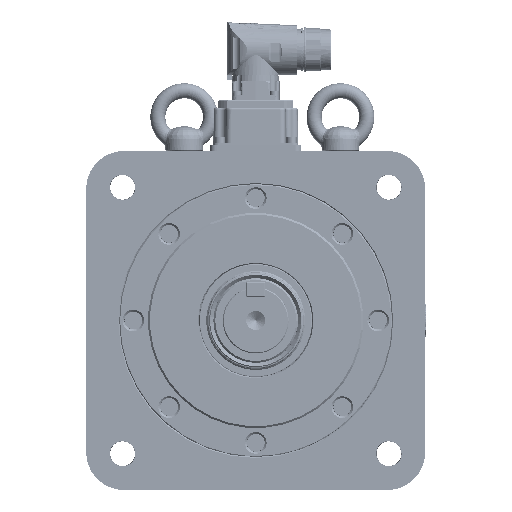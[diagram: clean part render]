
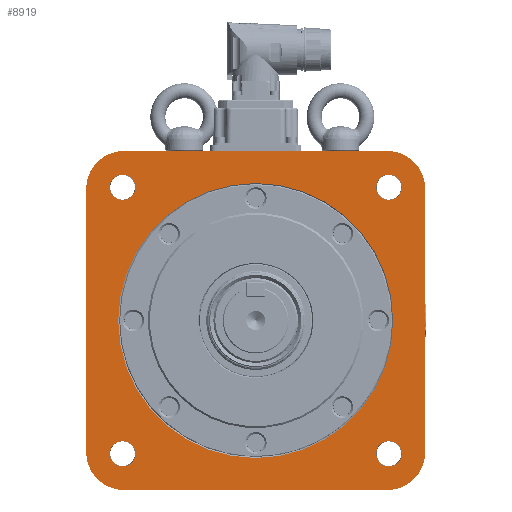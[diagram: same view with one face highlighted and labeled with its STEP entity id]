
A CAD part, front view. The second image highlights one B-rep face of the part: STEP entity #8919.
In plain terms, the highlighted planar face has unit normal (0, -1, 0).
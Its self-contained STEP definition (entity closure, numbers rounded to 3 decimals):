
#8919 = ADVANCED_FACE( '', ( #18913, #18914, #18915, #18916, #18917, #18918 ), #18919, .F. );
#18913 = FACE_BOUND( '', #45527, .T. );
#18914 = FACE_BOUND( '', #45528, .T. );
#18915 = FACE_BOUND( '', #45529, .T. );
#18916 = FACE_BOUND( '', #45530, .T. );
#18917 = FACE_BOUND( '', #45531, .T. );
#18918 = FACE_OUTER_BOUND( '', #45532, .T. );
#18919 = PLANE( '', #45533 );
#45527 = EDGE_LOOP( '', ( #70176 ) );
#45528 = EDGE_LOOP( '', ( #70177 ) );
#45529 = EDGE_LOOP( '', ( #70178 ) );
#45530 = EDGE_LOOP( '', ( #70179 ) );
#45531 = EDGE_LOOP( '', ( #70180 ) );
#45532 = EDGE_LOOP( '', ( #70181, #70182, #70183, #70184, #70185, #70186, #70187, #70188 ) );
#45533 = AXIS2_PLACEMENT_3D( '', #70189, #70190, #70191 );
#70176 = ORIENTED_EDGE( '', *, *, #75059, .T. );
#70177 = ORIENTED_EDGE( '', *, *, #73304, .F. );
#70178 = ORIENTED_EDGE( '', *, *, #73929, .F. );
#70179 = ORIENTED_EDGE( '', *, *, #73215, .F. );
#70180 = ORIENTED_EDGE( '', *, *, #72813, .F. );
#70181 = ORIENTED_EDGE( '', *, *, #80676, .T. );
#70182 = ORIENTED_EDGE( '', *, *, #77017, .T. );
#70183 = ORIENTED_EDGE( '', *, *, #80677, .T. );
#70184 = ORIENTED_EDGE( '', *, *, #78757, .T. );
#70185 = ORIENTED_EDGE( '', *, *, #80678, .T. );
#70186 = ORIENTED_EDGE( '', *, *, #76006, .T. );
#70187 = ORIENTED_EDGE( '', *, *, #80679, .T. );
#70188 = ORIENTED_EDGE( '', *, *, #76942, .T. );
#70189 = CARTESIAN_POINT( '', ( 0., -170., 72.5 ) );
#70190 = DIRECTION( '', ( 0., 1., 0. ) );
#70191 = DIRECTION( '', ( 0., 0., 1. ) );
#72813 = EDGE_CURVE( '', #84274, #84274, #84275, .F. );
#73215 = EDGE_CURVE( '', #84951, #84951, #84952, .F. );
#73304 = EDGE_CURVE( '', #85100, #85100, #85101, .F. );
#73929 = EDGE_CURVE( '', #86113, #86113, #86114, .F. );
#75059 = EDGE_CURVE( '', #87898, #87898, #87899, .T. );
#76006 = EDGE_CURVE( '', #89379, #89380, #89381, .F. );
#76942 = EDGE_CURVE( '', #90709, #90710, #90711, .F. );
#77017 = EDGE_CURVE( '', #90815, #90816, #90817, .F. );
#78757 = EDGE_CURVE( '', #93097, #93098, #93099, .F. );
#80676 = EDGE_CURVE( '', #90710, #90815, #95309, .T. );
#80677 = EDGE_CURVE( '', #90816, #93097, #95310, .T. );
#80678 = EDGE_CURVE( '', #93098, #89379, #95311, .T. );
#80679 = EDGE_CURVE( '', #89380, #90709, #95312, .T. );
#84274 = VERTEX_POINT( '', #104222 );
#84275 = CIRCLE( '', #104223, 6.745 );
#84951 = VERTEX_POINT( '', #105558 );
#84952 = CIRCLE( '', #105559, 6.745 );
#85100 = VERTEX_POINT( '', #105811 );
#85101 = CIRCLE( '', #105812, 6.745 );
#86113 = VERTEX_POINT( '', #108321 );
#86114 = CIRCLE( '', #108322, 6.745 );
#87898 = VERTEX_POINT( '', #112486 );
#87899 = CIRCLE( '', #112487, 73. );
#89379 = VERTEX_POINT( '', #115706 );
#89380 = VERTEX_POINT( '', #115707 );
#89381 = CIRCLE( '', #115708, 20. );
#90709 = VERTEX_POINT( '', #119405 );
#90710 = VERTEX_POINT( '', #119406 );
#90711 = CIRCLE( '', #119407, 20. );
#90815 = VERTEX_POINT( '', #119721 );
#90816 = VERTEX_POINT( '', #119722 );
#90817 = CIRCLE( '', #119723, 20. );
#93097 = VERTEX_POINT( '', #125527 );
#93098 = VERTEX_POINT( '', #125528 );
#93099 = CIRCLE( '', #125529, 20. );
#95309 = LINE( '', #131129, #131130 );
#95310 = LINE( '', #131131, #131132 );
#95311 = LINE( '', #131133, #131134 );
#95312 = LINE( '', #131135, #131136 );
#104222 = CARTESIAN_POINT( '', ( -70.711, -170., -63.966 ) );
#104223 = AXIS2_PLACEMENT_3D( '', #133872, #133873, #133874 );
#105558 = CARTESIAN_POINT( '', ( 70.711, -170., -63.966 ) );
#105559 = AXIS2_PLACEMENT_3D( '', #134414, #134415, #134416 );
#105811 = CARTESIAN_POINT( '', ( -70.711, -170., 77.455 ) );
#105812 = AXIS2_PLACEMENT_3D( '', #134543, #134544, #134545 );
#108321 = CARTESIAN_POINT( '', ( 70.711, -170., 77.455 ) );
#108322 = AXIS2_PLACEMENT_3D( '', #135277, #135278, #135279 );
#112486 = CARTESIAN_POINT( '', ( 0., -170., 73. ) );
#112487 = AXIS2_PLACEMENT_3D( '', #136629, #136630, #136631 );
#115706 = CARTESIAN_POINT( '', ( 90., -170., 70. ) );
#115707 = CARTESIAN_POINT( '', ( 70., -170., 90. ) );
#115708 = AXIS2_PLACEMENT_3D( '', #137699, #137700, #137701 );
#119405 = CARTESIAN_POINT( '', ( -70., -170., 90. ) );
#119406 = CARTESIAN_POINT( '', ( -90., -170., 70. ) );
#119407 = AXIS2_PLACEMENT_3D( '', #138715, #138716, #138717 );
#119721 = CARTESIAN_POINT( '', ( -90., -170., -70. ) );
#119722 = CARTESIAN_POINT( '', ( -70., -170., -90. ) );
#119723 = AXIS2_PLACEMENT_3D( '', #138788, #138789, #138790 );
#125527 = CARTESIAN_POINT( '', ( 70., -170., -90. ) );
#125528 = CARTESIAN_POINT( '', ( 90., -170., -70. ) );
#125529 = AXIS2_PLACEMENT_3D( '', #140569, #140570, #140571 );
#131129 = CARTESIAN_POINT( '', ( -90., -170., 90. ) );
#131130 = VECTOR( '', #141954, 1000. );
#131131 = CARTESIAN_POINT( '', ( -90., -170., -90. ) );
#131132 = VECTOR( '', #141955, 1000. );
#131133 = CARTESIAN_POINT( '', ( 90., -170., -90. ) );
#131134 = VECTOR( '', #141956, 1000. );
#131135 = CARTESIAN_POINT( '', ( 90., -170., 90. ) );
#131136 = VECTOR( '', #141957, 1000. );
#133872 = CARTESIAN_POINT( '', ( -70.711, -170., -70.711 ) );
#133873 = DIRECTION( '', ( 0., 1., 0. ) );
#133874 = DIRECTION( '', ( 0., 0., 1. ) );
#134414 = CARTESIAN_POINT( '', ( 70.711, -170., -70.711 ) );
#134415 = DIRECTION( '', ( 0., 1., 0. ) );
#134416 = DIRECTION( '', ( 0., 0., 1. ) );
#134543 = CARTESIAN_POINT( '', ( -70.711, -170., 70.711 ) );
#134544 = DIRECTION( '', ( 0., 1., 0. ) );
#134545 = DIRECTION( '', ( 0., 0., 1. ) );
#135277 = CARTESIAN_POINT( '', ( 70.711, -170., 70.711 ) );
#135278 = DIRECTION( '', ( 0., 1., 0. ) );
#135279 = DIRECTION( '', ( 0., 0., 1. ) );
#136629 = CARTESIAN_POINT( '', ( 0., -170., 0. ) );
#136630 = DIRECTION( '', ( 0., 1., 0. ) );
#136631 = DIRECTION( '', ( 0., 0., 1. ) );
#137699 = CARTESIAN_POINT( '', ( 70., -170., 70. ) );
#137700 = DIRECTION( '', ( 0., 1., 0. ) );
#137701 = DIRECTION( '', ( 0., 0., 1. ) );
#138715 = CARTESIAN_POINT( '', ( -70., -170., 70. ) );
#138716 = DIRECTION( '', ( 0., 1., 0. ) );
#138717 = DIRECTION( '', ( 0., 0., 1. ) );
#138788 = CARTESIAN_POINT( '', ( -70., -170., -70. ) );
#138789 = DIRECTION( '', ( 0., 1., 0. ) );
#138790 = DIRECTION( '', ( 0., 0., 1. ) );
#140569 = CARTESIAN_POINT( '', ( 70., -170., -70. ) );
#140570 = DIRECTION( '', ( 0., 1., 0. ) );
#140571 = DIRECTION( '', ( 0., 0., 1. ) );
#141954 = DIRECTION( '', ( 0., 0., -1. ) );
#141955 = DIRECTION( '', ( 1., 0., 0. ) );
#141956 = DIRECTION( '', ( 0., 0., 1. ) );
#141957 = DIRECTION( '', ( -1., 0., 0. ) );
